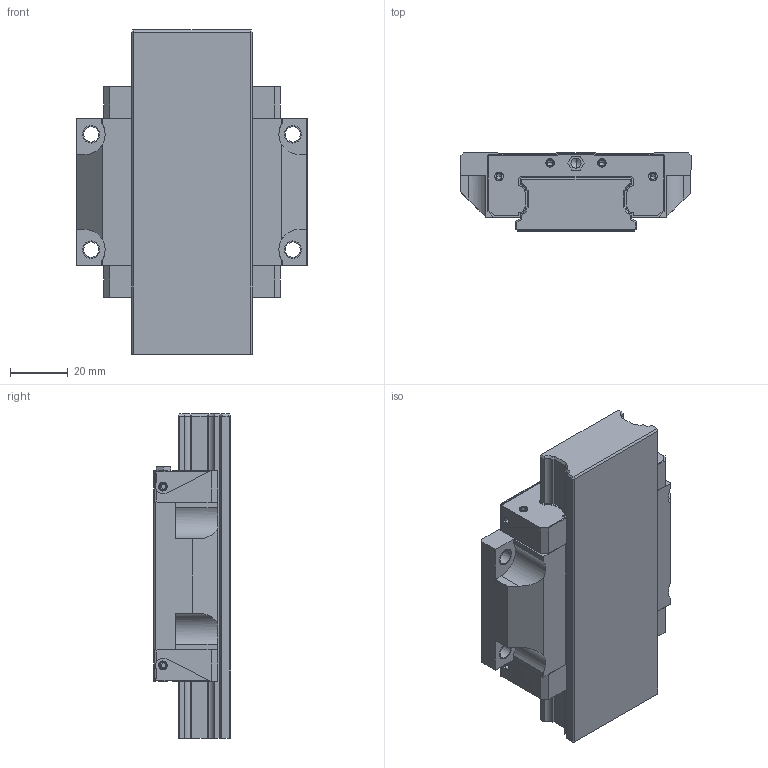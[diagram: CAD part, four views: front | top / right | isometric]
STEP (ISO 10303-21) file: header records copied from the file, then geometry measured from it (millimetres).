
FILE_DESCRIPTION((''),'2;1');
FILE_NAME('KWD_020_BNS_CS__ASM','2020-04-29T16:42:37',('ac91sw'),(''),'CREO PARAMETRIC BY PTC INC, 2018420','CREO PARAMETRIC BY PTC INC, 2018420','');
FILE_SCHEMA(('AUTOMOTIVE_DESIGN { 1 0 10303 214 1 1 1 1 }'));
Length unit declared in the file: millimetre
Products named in the file (7): KWD_020_BNS_CS__SKEL; KWD_020_BNS_CS__FW; R167150502_Z; R343708901_Z; KWD_020_BNS_CS__PSF; R341702909_Z; KWD_020_BNS_CS__ASM
Assembly tree (11 placements, depth 2):
  KWD_020_BNS_CS__ASM
    KWD_020_BNS_CS__SKEL
    KWD_020_BNS_CS__FW
    R167150502_Z  x2
    R343708901_Z  x5
    KWD_020_BNS_CS__PSF
    R341702909_Z
Bounding box: 80 x 27 x 112.6 mm (x, y, z)
Volume: 139867.2 mm3; surface area: 42422.8 mm2
Topology: 10 solids, 26 shells, 513 faces, 1322 edges, 843 vertices
Faces by surface type: plane 279, cylinder 166, cone 68
Entity records: 15776 total; most frequent: CARTESIAN_POINT 2023, DIRECTION 1778, ORIENTED_EDGE 1648, EDGE_CURVE 844, PROPERTY_DEFINITION 665, REPRESENTATION 656, PROPERTY_DEFINITION_REPRESENTATION 656, AXIS2_PLACEMENT_3D 604
